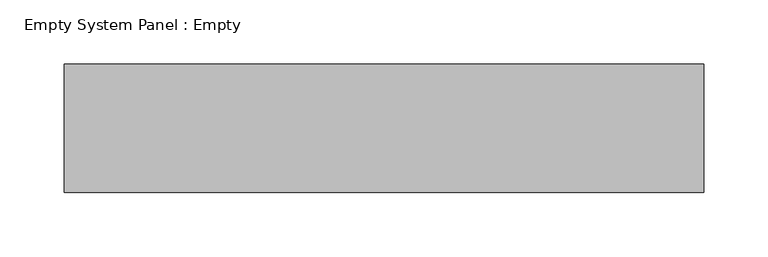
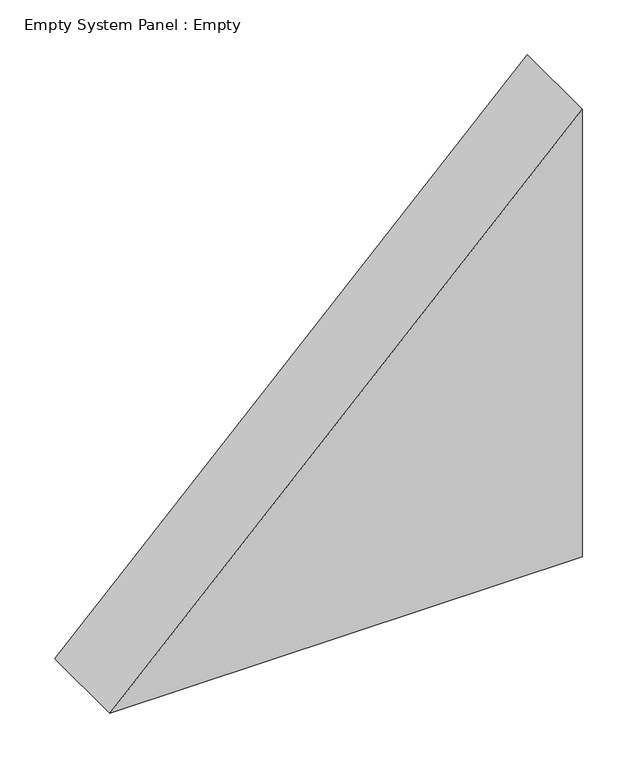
"""IFC4 building model written with IfcOpenShell, lengths in millimetres: plate geometry, Empty System Panel : Empty."""

import ifcopenshell
import ifcopenshell.guid

model = None  # the IFC model being written
_history = None  # IfcOwnerHistory: only IFC2X3 demands one
_inside = {}  # id of a spatial element -> (the spatial element, [elements in it])
_under = {}  # id of a project, library or spatial element -> (it, [spatial elements below it])
_declared = {}  # id of a project -> (the project, [libraries it declares])
_typed = {}  # id of a type object -> (the type object, [elements of that type])
_made_of = {}  # id of a material, layer set ... -> (it, [elements and type objects made of it])


def new_model(schema):
    """Start an empty IFC model of exactly this schema.

    Asked for "IFC4X3", IfcOpenShell would pick the latest addendum, in which some entities
    have other attributes; the version numbers below select the first issue.
    IFC2X3 requires an IfcOwnerHistory on every rooted entity: one is made here for all.
    """
    global model, _history
    if schema == "IFC4X3":
        model = ifcopenshell.file(schema_version=(4, 3, 0, 0))
    else:
        model = ifcopenshell.file(schema=schema)
    _inside.clear()
    _under.clear()
    _declared.clear()
    _typed.clear()
    _made_of.clear()
    _history = None
    if model.schema == "IFC2X3":
        org = make("IfcOrganization", Name="unknown")
        user = make(
            "IfcPersonAndOrganization",
            ThePerson=make("IfcPerson", FamilyName="unknown"),
            TheOrganization=org,
        )
        app = make(
            "IfcApplication",
            ApplicationDeveloper=org,
            Version="unknown",
            ApplicationFullName="unknown",
            ApplicationIdentifier="unknown",
        )
        _history = make(
            "IfcOwnerHistory",
            OwningUser=user,
            OwningApplication=app,
            ChangeAction="ADDED",
            CreationDate=0,
        )
    return model


def make(cls, **values):
    """One entity of the class cls with the attributes given. An attribute that is None is left unset."""
    return model.create_entity(
        cls, **{name: value for name, value in values.items() if value is not None}
    )


def rooted(cls, **values):
    """An entity with a GlobalId (a new one), such as an element, a storey or a relation."""
    return make(cls, GlobalId=ifcopenshell.guid.new(), OwnerHistory=_history, **values)


def si_unit(unit_type, name, prefix=None):
    """IfcSIUnit, for example si_unit("LENGTHUNIT", "METRE", prefix="MILLI")."""
    return make("IfcSIUnit", UnitType=unit_type, Prefix=prefix, Name=name)


def assignment(units):
    """IfcUnitAssignment: the units of a project."""
    return None if units is None else make("IfcUnitAssignment", Units=units)


def point(xyz):
    """IfcCartesianPoint."""
    return None if xyz is None else make("IfcCartesianPoint", Coordinates=xyz)


def direction(xyz):
    """IfcDirection."""
    return None if xyz is None else make("IfcDirection", DirectionRatios=xyz)


def frame(location, z_axis=None, x_axis=None):
    """IfcAxis2Placement3D, a coordinate frame: its origin and axes. An axis left out is left unset."""
    return make(
        "IfcAxis2Placement3D",
        Location=point(location),
        Axis=direction(z_axis),
        RefDirection=direction(x_axis),
    )


def origin():
    """The frame at (0, 0, 0) with its axes left unset."""
    return frame((0.0, 0.0, 0.0))


def place(relative_to, where):
    """IfcLocalPlacement: puts the frame where relative to a parent placement (None: the world)."""
    return make(
        "IfcLocalPlacement", PlacementRelTo=relative_to, RelativePlacement=where
    )


def context(
    kind, dimensions, precision=None, world=None, true_north=None, identifier=None
):
    """IfcGeometricRepresentationContext, for example the 3D "Model" context."""
    return make(
        "IfcGeometricRepresentationContext",
        ContextIdentifier=identifier,
        ContextType=kind,
        CoordinateSpaceDimension=dimensions,
        Precision=precision,
        WorldCoordinateSystem=world,
        TrueNorth=true_north,
    )


def project(units=None, contexts=None):
    """IfcProject with its units and contexts."""
    return rooted(
        "IfcProject",
        Name="project",
        RepresentationContexts=contexts,
        UnitsInContext=assignment(units),
    )


def spatial(cls, under=None, at=None, **own):
    """A site, building, storey or space (cls), placed at a placement, below another one or the project."""
    s = rooted(cls, ObjectPlacement=at, **own)
    if under is not None:
        _under.setdefault(under.id(), (under, []))[1].append(s)
    return s


def polyline(points):
    """IfcPolyline through the points."""
    return make("IfcPolyline", Points=[point(p) for p in points])


def outline(outer, holes=None, kind="AREA"):
    """IfcArbitraryClosedProfileDef: a profile drawn as a closed curve; with holes, ...WithVoids."""
    if holes is None:
        return make("IfcArbitraryClosedProfileDef", ProfileType=kind, OuterCurve=outer)
    return make(
        "IfcArbitraryProfileDefWithVoids",
        ProfileType=kind,
        OuterCurve=outer,
        InnerCurves=holes,
    )


def extrude(swept, where, along, depth):
    """IfcExtrudedAreaSolid: the profile swept, set in the frame where, extruded along a direction by depth."""
    return make(
        "IfcExtrudedAreaSolid",
        SweptArea=swept,
        Position=where,
        ExtrudedDirection=direction(along),
        Depth=depth,
    )


def shape(context_of_items, identifier, shape_type, items):
    """IfcShapeRepresentation: the items that make up one representation, for example the "Body"."""
    return make(
        "IfcShapeRepresentation",
        ContextOfItems=context_of_items,
        RepresentationIdentifier=identifier,
        RepresentationType=shape_type,
        Items=items,
    )


def source(mapping_origin, context_of_items, identifier, shape_type, items):
    """IfcRepresentationMap: a shape defined once, which mapped items show again and again."""
    return make(
        "IfcRepresentationMap",
        MappingOrigin=mapping_origin,
        MappedRepresentation=shape(context_of_items, identifier, shape_type, items),
    )


def transform(
    local_origin,
    x_axis=None,
    y_axis=None,
    z_axis=None,
    scale=None,
    scale2=None,
    scale3=None,
    uniform=True,
):
    """IfcCartesianTransformationOperator3D, or its non-uniform kind. x_axis, y_axis, z_axis: its Axis1, 2, 3."""
    if uniform:
        return make(
            "IfcCartesianTransformationOperator3D",
            Axis1=direction(x_axis),
            Axis2=direction(y_axis),
            LocalOrigin=point(local_origin),
            Scale=scale,
            Axis3=direction(z_axis),
        )
    return make(
        "IfcCartesianTransformationOperator3DnonUniform",
        Axis1=direction(x_axis),
        Axis2=direction(y_axis),
        LocalOrigin=point(local_origin),
        Scale=scale,
        Axis3=direction(z_axis),
        Scale2=scale2,
        Scale3=scale3,
    )


def mapped(mapping_source, mapping_target):
    """IfcMappedItem: shows the shape of a source again, moved by a transform."""
    return make(
        "IfcMappedItem", MappingSource=mapping_source, MappingTarget=mapping_target
    )


def made_of(thing, what):
    """Note that an element or type object is made of a material, layer set ...; save() writes the relation."""
    if what is not None:
        _made_of.setdefault(what.id(), (what, []))[1].append(thing)
    return thing


def element(
    cls,
    number,
    at=None,
    inside=None,
    cuts=None,
    type_object=None,
    material=None,
    context=None,
    identifier="Body",
    shape_type=None,
    held_by="IfcProductDefinitionShape",
    body=None,
    shapes=None,
    **own,
):
    """One element of the class cls, such as IfcWall. Its Tag is "e" and its number.

    at: its placement. inside: the storey or other place that contains it. cuts: it is an
    opening in that element (IfcRelVoidsElement). A single representation is given by context,
    identifier, shape_type and body (its items); several are given by shapes. held_by: the class
    of the entity that holds the representations. save() writes the other relations.
    """
    e = rooted(cls, Tag="e%d" % number, ObjectPlacement=at, **own)
    if body is not None:
        shapes = [shape(context, identifier, shape_type, body)]
    if shapes is not None:
        e.Representation = make(held_by, Representations=shapes)
    if inside is not None:
        _inside.setdefault(inside.id(), (inside, []))[1].append(e)
    if cuts is not None:
        rooted(
            "IfcRelVoidsElement", RelatingBuildingElement=cuts, RelatedOpeningElement=e
        )
    if type_object is not None:
        _typed.setdefault(type_object.id(), (type_object, []))[1].append(e)
    return made_of(e, material)


def aggregate(whole, parts):
    """IfcRelAggregates: a whole, such as a stair, and the parts it consists of."""
    return rooted("IfcRelAggregates", RelatingObject=whole, RelatedObjects=parts)


def save(model, path):
    """Write the relations noted so far, then the file.

    IfcRelAggregates (storeys below a building ...), IfcRelContainedInSpatialStructure (elements
    in a storey), IfcRelDefinesByType, IfcRelAssociatesMaterial and IfcRelDeclares: one each for
    every whole, place, type object, material and project.
    """
    for whole, parts in _under.values():
        aggregate(whole, parts)
    for where, things in _inside.values():
        rooted(
            "IfcRelContainedInSpatialStructure",
            RelatedElements=things,
            RelatingStructure=where,
        )
    for kind, things in _typed.values():
        rooted("IfcRelDefinesByType", RelatedObjects=things, RelatingType=kind)
    for what, things in _made_of.values():
        rooted("IfcRelAssociatesMaterial", RelatedObjects=things, RelatingMaterial=what)
    for by, libraries in _declared.values():
        rooted("IfcRelDeclares", RelatingContext=by, RelatedDefinitions=libraries)
    model.write(path)


def empty_system_panel_empty_103b7ba7(model_context):
    return source(origin(), model_context, "Body", "SweptSolid", [
        extrude(outline(polyline([(0.0, -248.6807831), (0.0, 248.6807831), (498.0442087, 248.6807831), (0.0, -248.6807831)])), frame((0.0, -50.0, 0.0), z_axis=(0.0, 1.0, 0.0), x_axis=(0.0, 0.0, 1.0)), (0.0, 0.0, 1.0), 100.0),
    ])


if __name__ == "__main__":
    model = new_model("IFC4")
    model_context = context("Model", 3, world=origin())
    ifc_project = project(units=[si_unit("LENGTHUNIT", "METRE", prefix="MILLI")], contexts=[model_context])
    site = spatial("IfcSite", under=ifc_project)
    building = spatial("IfcBuilding", under=site)
    placement = place(None, origin())
    empty_system_panel_empty_shape = empty_system_panel_empty_103b7ba7(model_context)
    element("IfcPlate", 1, ObjectType="Empty System Panel : Empty", at=placement, inside=building, context=model_context, shape_type="MappedRepresentation", body=[
        mapped(empty_system_panel_empty_shape, transform((0.0, 0.0, 0.0), x_axis=(1.0, 0.0, 0.0), y_axis=(0.0, 1.0, 0.0), z_axis=(0.0, 0.0, 1.0))),
    ])
    save(model, "model.ifc")
